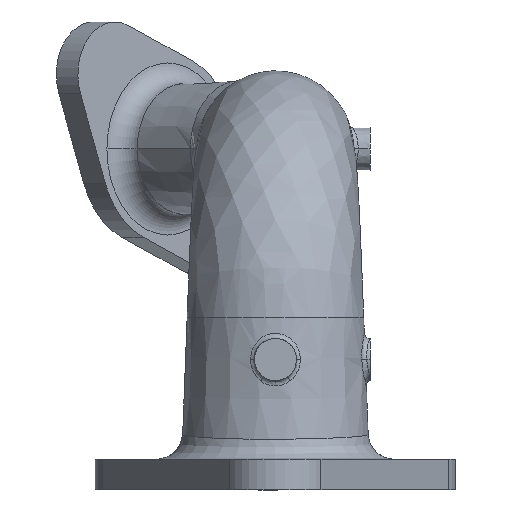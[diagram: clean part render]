
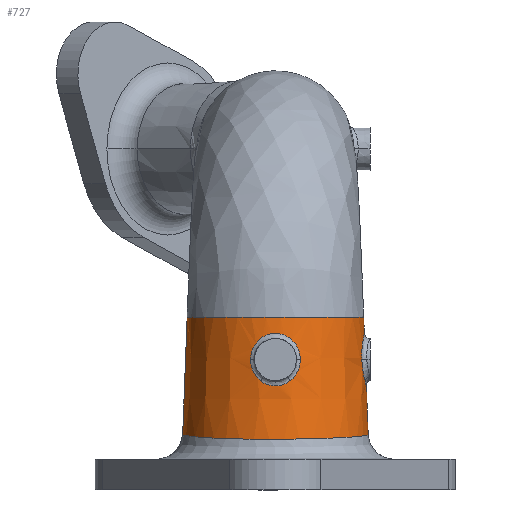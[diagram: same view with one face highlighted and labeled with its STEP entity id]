
A CAD part, left-side view. The second image highlights one B-rep face of the part: STEP entity #727.
In plain terms, the highlighted conical face has half-angle 2.187 degrees and reference radius 53.27 mm.
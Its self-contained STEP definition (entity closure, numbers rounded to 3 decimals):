
#302=FACE_BOUND('',#1713,.T.);
#323=CONICAL_SURFACE('',#6048,53.27,2.187);
#482=B_SPLINE_CURVE_WITH_KNOTS('',3,(#2312,#2313,#2314,#2315,#2316,#2317,#2257),.UNSPECIFIED.,.F.,.U.,(4,1,1,1,4),(0.,0.244,0.497,0.752,1.),.UNSPECIFIED.);
#487=B_SPLINE_CURVE_WITH_KNOTS('',3,(#2401,#2416,#2417,#2418,#2419,#2420,#2421,#2422,#2423,#2424,#2415),.UNSPECIFIED.,.F.,.U.,(4,1,1,1,1,1,1,1,4),(0.,0.117,0.238,0.367,0.502,0.636,0.763,0.883,1.),.UNSPECIFIED.);
#491=B_SPLINE_CURVE_WITH_KNOTS('',3,(#2483,#2484,#2485,#2486,#2401),.UNSPECIFIED.,.F.,.U.,(4,1,4),(0.,0.513,1.),.UNSPECIFIED.);
#492=B_SPLINE_CURVE_WITH_KNOTS('',3,(#2522,#2528,#2529,#2530,#2312),.UNSPECIFIED.,.F.,.U.,(4,1,4),(0.,0.489,1.),.UNSPECIFIED.);
#493=B_SPLINE_CURVE_WITH_KNOTS('',3,(#2532,#2534,#2535,#2533),.UNSPECIFIED.,.F.,.U.,(4,4),(0.,1.),.UNSPECIFIED.);
#499=B_SPLINE_CURVE_WITH_KNOTS('',3,(#2562,#2563,#2564,#2554),.UNSPECIFIED.,.F.,.U.,(4,4),(0.,1.),.UNSPECIFIED.);
#503=B_SPLINE_CURVE_WITH_KNOTS('',3,(#2581,#2582,#2583,#2577),.UNSPECIFIED.,.F.,.U.,(4,4),(0.,1.),.UNSPECIFIED.);
#512=B_SPLINE_CURVE_WITH_KNOTS('',3,(#2554,#3136,#3137,#3138,#3139,#3140,#3141,#3142,#3143,#3144,#3145,#3146,#3147,#3148,#3149,#3150,#2533),.UNSPECIFIED.,.F.,.U.,(4,1,1,1,1,1,1,1,1,1,1,1,1,1,4),(0.,0.079,0.158,0.236,0.312,0.386,0.457,0.525,0.59,0.652,0.711,0.767,0.82,0.915,1.),.UNSPECIFIED.);
#516=B_SPLINE_CURVE_WITH_KNOTS('',3,(#2655,#3239,#3240,#3241,#3242,#3243,#3244,#3238),.UNSPECIFIED.,.F.,.U.,(4,1,1,1,1,4),(0.,0.141,0.278,0.534,0.772,1.),.UNSPECIFIED.);
#519=B_SPLINE_CURVE_WITH_KNOTS('',3,(#3282,#3284,#3285,#3286,#2577),.UNSPECIFIED.,.F.,.U.,(4,1,4),(0.,0.49,1.),.UNSPECIFIED.);
#521=B_SPLINE_CURVE_WITH_KNOTS('',3,(#3337,#3338,#3339,#3340,#3283),.UNSPECIFIED.,.F.,.U.,(4,1,4),(0.,0.483,1.),.UNSPECIFIED.);
#601=B_SPLINE_CURVE_WITH_KNOTS('',3,(#5813,#5814,#5815,#5816,#5817,#5818,#5819,#5820,#5821,#5822,#5823,#5824,#5825,#5826,#5827,#5828,#2532),.UNSPECIFIED.,.F.,.U.,(4,1,1,1,1,1,1,1,1,1,1,1,1,1,4),(0.,0.063,0.129,0.197,0.266,0.336,0.404,0.471,0.535,0.595,0.654,0.712,0.77,0.885,1.),.UNSPECIFIED.);
#727=ADVANCED_FACE('PartBody',(#817,#302),#323,.T.);
#817=FACE_OUTER_BOUND('',#1712,.T.);
#1210=ORIENTED_EDGE('',*,*,#1249,.F.);
#1211=ORIENTED_EDGE('',*,*,#1431,.F.);
#1212=ORIENTED_EDGE('',*,*,#1259,.T.);
#1213=ORIENTED_EDGE('',*,*,#1281,.F.);
#1214=ORIENTED_EDGE('',*,*,#1284,.F.);
#1215=ORIENTED_EDGE('',*,*,#1276,.F.);
#1216=ORIENTED_EDGE('',*,*,#1255,.T.);
#1217=ORIENTED_EDGE('',*,*,#1269,.T.);
#1218=ORIENTED_EDGE('',*,*,#1236,.F.);
#1219=ORIENTED_EDGE('',*,*,#1248,.F.);
#1220=ORIENTED_EDGE('',*,*,#1243,.F.);
#1221=ORIENTED_EDGE('',*,*,#1247,.F.);
#1236=EDGE_CURVE('7',#1496,#1497,#482,.T.);
#1243=EDGE_CURVE('13',#1500,#1501,#487,.T.);
#1247=EDGE_CURVE('16',#1497,#1500,#491,.T.);
#1248=EDGE_CURVE('17',#1501,#1496,#492,.T.);
#1249=EDGE_CURVE('24',#1502,#1503,#493,.T.);
#1255=EDGE_CURVE('18',#1509,#1508,#499,.T.);
#1259=EDGE_CURVE('26',#1513,#1512,#503,.T.);
#1269=EDGE_CURVE('37',#1508,#1503,#512,.T.);
#1276=EDGE_CURVE('46',#1509,#1523,#516,.T.);
#1281=EDGE_CURVE('52',#1525,#1512,#519,.T.);
#1284=EDGE_CURVE('53',#1523,#1525,#521,.T.);
#1431=EDGE_CURVE('199',#1513,#1502,#601,.T.);
#1496=VERTEX_POINT('5',#2312);
#1497=VERTEX_POINT('6',#2257);
#1500=VERTEX_POINT('9',#2401);
#1501=VERTEX_POINT('10',#2415);
#1502=VERTEX_POINT('18',#2532);
#1503=VERTEX_POINT('17',#2533);
#1508=VERTEX_POINT('12',#2554);
#1509=VERTEX_POINT('11',#2562);
#1512=VERTEX_POINT('20',#2577);
#1513=VERTEX_POINT('19',#2581);
#1523=VERTEX_POINT('32',#3238);
#1525=VERTEX_POINT('34',#3283);
#1712=EDGE_LOOP('',(#1210,#1211,#1212,#1213,#1214,#1215,#1216,#1217));
#1713=EDGE_LOOP('',(#1218,#1219,#1220,#1221));
#2257=CARTESIAN_POINT('',(-54.019,-8.825,63.24));
#2312=CARTESIAN_POINT('',(-54.019,8.825,63.24));
#2313=CARTESIAN_POINT('',(-54.252,7.617,62.31));
#2314=CARTESIAN_POINT('',(-54.68,4.804,60.829));
#2315=CARTESIAN_POINT('',(-54.929,0.04,60.075));
#2316=CARTESIAN_POINT('',(-54.687,-4.751,60.807));
#2317=CARTESIAN_POINT('',(-54.255,-7.6,62.297));
#2401=CARTESIAN_POINT('',(-52.13,-14.998,76.079));
#2415=CARTESIAN_POINT('',(-52.13,14.998,76.079));
#2416=CARTESIAN_POINT('',(-52.056,-14.997,77.962));
#2417=CARTESIAN_POINT('',(-52.098,-14.338,81.834));
#2418=CARTESIAN_POINT('',(-52.663,-11.358,87.048));
#2419=CARTESIAN_POINT('',(-53.404,-6.388,90.971));
#2420=CARTESIAN_POINT('',(-53.762,0.088,92.477));
#2421=CARTESIAN_POINT('',(-53.389,6.507,90.899));
#2422=CARTESIAN_POINT('',(-52.656,11.396,86.99));
#2423=CARTESIAN_POINT('',(-52.098,14.341,81.815));
#2424=CARTESIAN_POINT('',(-52.056,14.997,77.96));
#2483=CARTESIAN_POINT('',(-54.019,-8.825,63.24));
#2484=CARTESIAN_POINT('',(-53.637,-10.803,64.762));
#2485=CARTESIAN_POINT('',(-52.747,-13.934,68.732));
#2486=CARTESIAN_POINT('',(-52.225,-14.999,73.688));
#2522=CARTESIAN_POINT('',(-52.13,14.998,76.079));
#2528=CARTESIAN_POINT('',(-52.225,14.999,73.678));
#2529=CARTESIAN_POINT('',(-52.749,13.929,68.721));
#2530=CARTESIAN_POINT('',(-53.638,10.795,64.756));
#2531=CARTESIAN_POINT('',(0.,0.,101.6));
#2532=CARTESIAN_POINT('',(0.,55.961,31.122));
#2533=CARTESIAN_POINT('',(0.,53.27,101.6));
#2534=CARTESIAN_POINT('',(0.,55.064,54.615));
#2535=CARTESIAN_POINT('',(0.,54.167,78.107));
#2554=CARTESIAN_POINT('',(0.,-53.27,101.6));
#2562=CARTESIAN_POINT('',(0.,-53.638,91.96));
#2563=CARTESIAN_POINT('',(0.,-53.515,95.174));
#2564=CARTESIAN_POINT('',(0.,-53.393,98.387));
#2577=CARTESIAN_POINT('',(0.,-54.846,60.325));
#2581=CARTESIAN_POINT('',(0.,-55.961,31.122));
#2582=CARTESIAN_POINT('',(0.,-55.59,40.857));
#2583=CARTESIAN_POINT('',(0.,-55.218,50.591));
#2655=CARTESIAN_POINT('',(0.,-53.638,91.96));
#3136=CARTESIAN_POINT('',(-4.422,-53.27,101.6));
#3137=CARTESIAN_POINT('',(-13.271,-52.162,101.6));
#3138=CARTESIAN_POINT('',(-25.616,-47.32,101.6));
#3139=CARTESIAN_POINT('',(-36.254,-39.736,101.6));
#3140=CARTESIAN_POINT('',(-44.579,-30.052,101.6));
#3141=CARTESIAN_POINT('',(-50.251,-19.024,101.6));
#3142=CARTESIAN_POINT('',(-53.182,-7.422,101.6));
#3143=CARTESIAN_POINT('',(-53.509,4.057,101.6));
#3144=CARTESIAN_POINT('',(-51.53,14.846,101.6));
#3145=CARTESIAN_POINT('',(-47.648,24.529,101.6));
#3146=CARTESIAN_POINT('',(-42.302,32.849,101.6));
#3147=CARTESIAN_POINT('',(-35.921,39.682,101.6));
#3148=CARTESIAN_POINT('',(-26.85,46.582,101.6));
#3149=CARTESIAN_POINT('',(-14.803,51.926,101.6));
#3150=CARTESIAN_POINT('',(-4.714,53.27,101.6));
#3238=CARTESIAN_POINT('',(-15.031,-52.121,76.079));
#3239=CARTESIAN_POINT('',(-1.139,-53.638,91.96));
#3240=CARTESIAN_POINT('',(-3.396,-53.575,91.686));
#3241=CARTESIAN_POINT('',(-7.457,-53.248,90.177));
#3242=CARTESIAN_POINT('',(-11.512,-52.634,86.897));
#3243=CARTESIAN_POINT('',(-14.397,-52.085,81.724));
#3244=CARTESIAN_POINT('',(-15.031,-52.047,77.923));
#3282=CARTESIAN_POINT('',(-8.547,-54.072,63.031));
#3283=CARTESIAN_POINT('',(-8.547,-54.072,63.031));
#3284=CARTESIAN_POINT('',(-7.357,-54.293,62.164));
#3285=CARTESIAN_POINT('',(-4.611,-54.695,60.784));
#3286=CARTESIAN_POINT('',(-1.55,-54.846,60.325));
#3337=CARTESIAN_POINT('',(-15.031,-52.121,76.079));
#3338=CARTESIAN_POINT('',(-15.031,-52.217,73.646));
#3339=CARTESIAN_POINT('',(-13.914,-52.762,68.569));
#3340=CARTESIAN_POINT('',(-10.626,-53.684,64.548));
#5813=CARTESIAN_POINT('',(0.,-55.961,31.122));
#5814=CARTESIAN_POINT('',(-3.712,-55.969,30.918));
#5815=CARTESIAN_POINT('',(-11.292,-55.228,30.502));
#5816=CARTESIAN_POINT('',(-22.378,-51.791,29.917));
#5817=CARTESIAN_POINT('',(-32.809,-45.95,29.389));
#5818=CARTESIAN_POINT('',(-41.917,-37.868,28.934));
#5819=CARTESIAN_POINT('',(-49.092,-27.968,28.561));
#5820=CARTESIAN_POINT('',(-53.91,-16.887,28.284));
#5821=CARTESIAN_POINT('',(-56.214,-5.369,28.115));
#5822=CARTESIAN_POINT('',(-56.126,5.902,28.071));
#5823=CARTESIAN_POINT('',(-53.946,16.467,28.154));
#5824=CARTESIAN_POINT('',(-49.971,26.108,28.354));
#5825=CARTESIAN_POINT('',(-44.399,34.72,28.658));
#5826=CARTESIAN_POINT('',(-35.071,44.625,29.181));
#5827=CARTESIAN_POINT('',(-20.299,53.539,30.011));
#5828=CARTESIAN_POINT('',(-6.701,55.976,30.755));
#6048=AXIS2_PLACEMENT_3D('',#2531,#6116,#6113);
#6113=DIRECTION('',(0.,1.,0.));
#6116=DIRECTION('',(0.,0.,-1.));
